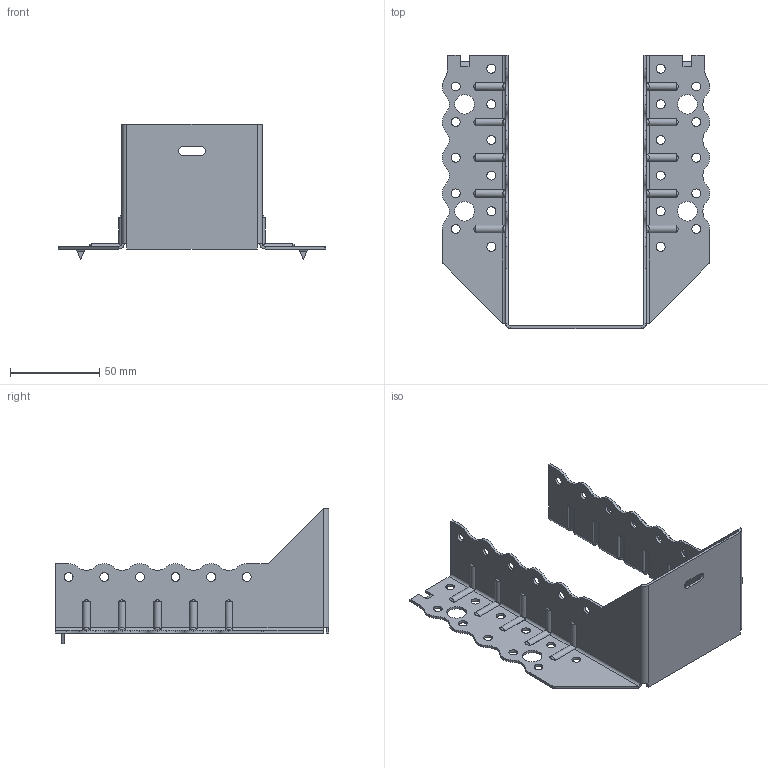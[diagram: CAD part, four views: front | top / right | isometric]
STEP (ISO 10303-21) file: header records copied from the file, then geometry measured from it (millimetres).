
FILE_DESCRIPTION (( 'STEP AP203' ), '1' );
FILE_NAME ('30619TOP.STEP', '2021-04-07T13:28:00', ( '' ), ( '' ), 'SwSTEP 2.0', 'SolidWorks 2013', '' );
FILE_SCHEMA (( 'CONFIG_CONTROL_DESIGN' ));
Length unit declared in the file: millimetre
Products named in the file (1): 30619TOP
Bounding box: 150 x 153.5 x 76 mm (x, y, z)
Volume: 38576.8 mm3; surface area: 54870 mm2
Topology: 1 solids, 1 shells, 428 faces, 1154 edges, 728 vertices
Faces by surface type: cylinder 269, plane 119, torus 20, bspline 20
Entity records: 15880 total; most frequent: CARTESIAN_POINT 5007, ORIENTED_EDGE 2308, DIRECTION 2228, EDGE_CURVE 1154, AXIS2_PLACEMENT_3D 813, VERTEX_POINT 728, LINE 602, VECTOR 602
